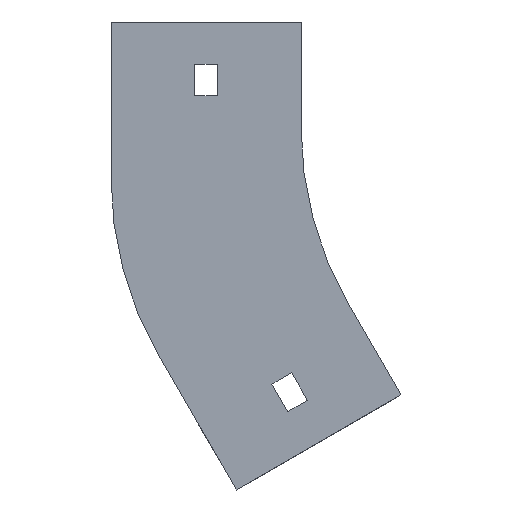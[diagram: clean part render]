
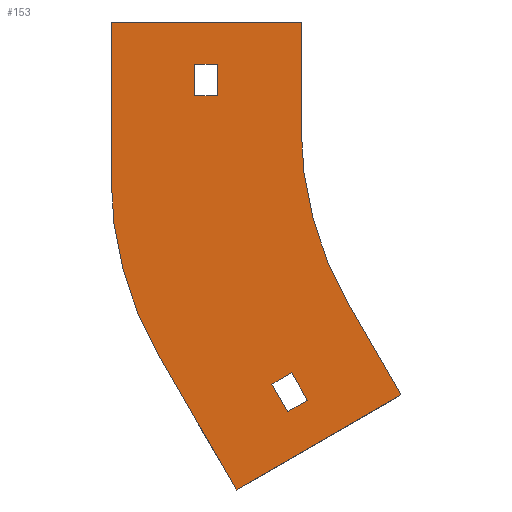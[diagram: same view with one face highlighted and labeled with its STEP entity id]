
A CAD part, front view. The second image highlights one B-rep face of the part: STEP entity #153.
In plain terms, the highlighted planar face has unit normal (0, -1, 0).
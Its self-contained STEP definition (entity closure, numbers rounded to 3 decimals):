
#5 = CARTESIAN_POINT ( 'NONE',  ( -123.75, 0., 9. ) ) ;
#7 = CARTESIAN_POINT ( 'NONE',  ( -54., 0., -14.469 ) ) ;
#8 = LINE ( 'NONE', #552, #973 ) ;
#14 = AXIS2_PLACEMENT_3D ( 'NONE', #638, #321, #531 ) ;
#20 = CARTESIAN_POINT ( 'NONE',  ( -123.75, 0., 9. ) ) ;
#23 = LINE ( 'NONE', #487, #956 ) ;
#27 = CARTESIAN_POINT ( 'NONE',  ( -100., 0., 0. ) ) ;
#30 = VERTEX_POINT ( 'NONE', #1126 ) ;
#37 = CARTESIAN_POINT ( 'NONE',  ( 0., 0., 0. ) ) ;
#46 = PLANE ( 'NONE',  #1288 ) ;
#52 = VERTEX_POINT ( 'NONE', #1305 ) ;
#54 = EDGE_CURVE ( 'NONE', #1253, #1090, #8, .T. ) ;
#58 = ORIENTED_EDGE ( 'NONE', *, *, #580, .F. ) ;
#89 = EDGE_CURVE ( 'NONE', #1090, #465, #1212, .T. ) ;
#91 = DIRECTION ( 'NONE',  ( 1., 0., 0. ) ) ;
#93 = DIRECTION ( 'NONE',  ( -0.866, 0., -0.5 ) ) ;
#125 = ORIENTED_EDGE ( 'NONE', *, *, #263, .F. ) ;
#127 = CARTESIAN_POINT ( 'NONE',  ( -86.603, 0., -50. ) ) ;
#133 = EDGE_LOOP ( 'NONE', ( #885, #837, #1022, #1375 ) ) ;
#149 = FACE_BOUND ( 'NONE', #470, .T. ) ;
#153 = ADVANCED_FACE ( 'NONE', ( #149, #1016, #222 ), #46, .T. ) ;
#161 = ORIENTED_EDGE ( 'NONE', *, *, #89, .T. ) ;
#165 = LINE ( 'NONE', #1357, #1311 ) ;
#179 = AXIS2_PLACEMENT_3D ( 'NONE', #7, #905, #654 ) ;
#181 = VECTOR ( 'NONE', #329, 1000. ) ;
#189 = CARTESIAN_POINT ( 'NONE',  ( -130.25, 0., 18. ) ) ;
#193 = LINE ( 'NONE', #189, #332 ) ;
#194 = EDGE_CURVE ( 'NONE', #1100, #1120, #165, .T. ) ;
#222 = FACE_BOUND ( 'NONE', #133, .T. ) ;
#225 = LINE ( 'NONE', #1331, #658 ) ;
#229 = VERTEX_POINT ( 'NONE', #372 ) ;
#238 = ORIENTED_EDGE ( 'NONE', *, *, #623, .T. ) ;
#253 = CARTESIAN_POINT ( 'NONE',  ( -71.603, 0., -75.981 ) ) ;
#263 = EDGE_CURVE ( 'NONE', #281, #1340, #1352, .T. ) ;
#269 = CARTESIAN_POINT ( 'NONE',  ( -100., 0., 30. ) ) ;
#278 = DIRECTION ( 'NONE',  ( -0.5, 0., 0.866 ) ) ;
#280 = CARTESIAN_POINT ( 'NONE',  ( -154., 0., -14.469 ) ) ;
#281 = VERTEX_POINT ( 'NONE', #625 ) ;
#321 = DIRECTION ( 'NONE',  ( 0., -1., 0. ) ) ;
#329 = DIRECTION ( 'NONE',  ( 0., 0., -1. ) ) ;
#331 = VECTOR ( 'NONE', #832, 1000. ) ;
#332 = VECTOR ( 'NONE', #91, 1000. ) ;
#342 = DIRECTION ( 'NONE',  ( 1., 0., 0. ) ) ;
#358 = DIRECTION ( 'NONE',  ( 0.866, 0., 0.5 ) ) ;
#371 = ORIENTED_EDGE ( 'NONE', *, *, #511, .F. ) ;
#372 = CARTESIAN_POINT ( 'NONE',  ( -123.75, 0., 18. ) ) ;
#403 = VECTOR ( 'NONE', #776, 1000. ) ;
#406 = CIRCLE ( 'NONE', #14, 100. ) ;
#412 = ORIENTED_EDGE ( 'NONE', *, *, #763, .F. ) ;
#426 = VECTOR ( 'NONE', #93, 1000. ) ;
#433 = ORIENTED_EDGE ( 'NONE', *, *, #1220, .F. ) ;
#459 = EDGE_CURVE ( 'NONE', #916, #721, #225, .T. ) ;
#462 = CARTESIAN_POINT ( 'NONE',  ( -103.8, 0., -80.713 ) ) ;
#465 = VERTEX_POINT ( 'NONE', #802 ) ;
#468 = EDGE_CURVE ( 'NONE', #1340, #1027, #986, .T. ) ;
#470 = EDGE_LOOP ( 'NONE', ( #161, #238, #1140, #651 ) ) ;
#487 = CARTESIAN_POINT ( 'NONE',  ( -103.8, 0., -80.713 ) ) ;
#511 = EDGE_CURVE ( 'NONE', #689, #925, #1111, .T. ) ;
#531 = DIRECTION ( 'NONE',  ( 0., 0., -1. ) ) ;
#547 = ORIENTED_EDGE ( 'NONE', *, *, #629, .F. ) ;
#552 = CARTESIAN_POINT ( 'NONE',  ( -130.25, 0., 9. ) ) ;
#572 = DIRECTION ( 'NONE',  ( 0.5, 0., -0.866 ) ) ;
#580 = EDGE_CURVE ( 'NONE', #925, #1100, #968, .T. ) ;
#622 = CARTESIAN_POINT ( 'NONE',  ( -102.671, 0., -69.669 ) ) ;
#623 = EDGE_CURVE ( 'NONE', #465, #229, #193, .T. ) ;
#625 = CARTESIAN_POINT ( 'NONE',  ( -154., 0., -14.469 ) ) ;
#629 = EDGE_CURVE ( 'NONE', #709, #689, #406, .T. ) ;
#637 = VECTOR ( 'NONE', #1058, 1000. ) ;
#638 = CARTESIAN_POINT ( 'NONE',  ( 0., 0., 0. ) ) ;
#651 = ORIENTED_EDGE ( 'NONE', *, *, #54, .T. ) ;
#654 = DIRECTION ( 'NONE',  ( 0., 0., 1. ) ) ;
#656 = LINE ( 'NONE', #1078, #426 ) ;
#658 = VECTOR ( 'NONE', #669, 1000. ) ;
#659 = VECTOR ( 'NONE', #1222, 1000. ) ;
#669 = DIRECTION ( 'NONE',  ( 0.5, 0., -0.866 ) ) ;
#671 = CARTESIAN_POINT ( 'NONE',  ( -86.603, 0., -50. ) ) ;
#673 = DIRECTION ( 'NONE',  ( -1., 0., 0. ) ) ;
#674 = CARTESIAN_POINT ( 'NONE',  ( -100., 0., 30. ) ) ;
#676 = ORIENTED_EDGE ( 'NONE', *, *, #468, .F. ) ;
#682 = LINE ( 'NONE', #674, #181 ) ;
#689 = VERTEX_POINT ( 'NONE', #671 ) ;
#709 = VERTEX_POINT ( 'NONE', #27 ) ;
#721 = VERTEX_POINT ( 'NONE', #462 ) ;
#744 = VECTOR ( 'NONE', #342, 1000. ) ;
#763 = EDGE_CURVE ( 'NONE', #1120, #281, #1366, .T. ) ;
#776 = DIRECTION ( 'NONE',  ( 0., 0., 1. ) ) ;
#786 = LINE ( 'NONE', #5, #659 ) ;
#790 = CARTESIAN_POINT ( 'NONE',  ( -154., 0., 30. ) ) ;
#802 = CARTESIAN_POINT ( 'NONE',  ( -130.25, 0., 18. ) ) ;
#832 = DIRECTION ( 'NONE',  ( 0., 0., 1. ) ) ;
#837 = ORIENTED_EDGE ( 'NONE', *, *, #459, .F. ) ;
#855 = CARTESIAN_POINT ( 'NONE',  ( -118.368, 0., -102.981 ) ) ;
#874 = CARTESIAN_POINT ( 'NONE',  ( -154., 0., 30. ) ) ;
#885 = ORIENTED_EDGE ( 'NONE', *, *, #918, .F. ) ;
#905 = DIRECTION ( 'NONE',  ( 0., 1., 0. ) ) ;
#907 = DIRECTION ( 'NONE',  ( 0., 0., -1. ) ) ;
#914 = VECTOR ( 'NONE', #278, 1000. ) ;
#916 = VERTEX_POINT ( 'NONE', #1243 ) ;
#918 = EDGE_CURVE ( 'NONE', #721, #52, #23, .T. ) ;
#920 = ORIENTED_EDGE ( 'NONE', *, *, #194, .F. ) ;
#924 = DIRECTION ( 'NONE',  ( -0.5, 0., 0.866 ) ) ;
#925 = VERTEX_POINT ( 'NONE', #253 ) ;
#936 = VECTOR ( 'NONE', #572, 1000. ) ;
#956 = VECTOR ( 'NONE', #358, 1000. ) ;
#968 = LINE ( 'NONE', #976, #637 ) ;
#973 = VECTOR ( 'NONE', #673, 1000. ) ;
#976 = CARTESIAN_POINT ( 'NONE',  ( -71.603, 0., -75.981 ) ) ;
#978 = CARTESIAN_POINT ( 'NONE',  ( -130.25, 0., 9. ) ) ;
#982 = EDGE_CURVE ( 'NONE', #52, #30, #1256, .T. ) ;
#986 = LINE ( 'NONE', #790, #744 ) ;
#996 = CARTESIAN_POINT ( 'NONE',  ( -130.25, 0., 9. ) ) ;
#1016 = FACE_OUTER_BOUND ( 'NONE', #1176, .T. ) ;
#1022 = ORIENTED_EDGE ( 'NONE', *, *, #1164, .F. ) ;
#1027 = VERTEX_POINT ( 'NONE', #269 ) ;
#1058 = DIRECTION ( 'NONE',  ( -0.866, 0., -0.5 ) ) ;
#1078 = CARTESIAN_POINT ( 'NONE',  ( -108.3, 0., -72.919 ) ) ;
#1090 = VERTEX_POINT ( 'NONE', #978 ) ;
#1092 = CARTESIAN_POINT ( 'NONE',  ( -140.603, 0., -64.469 ) ) ;
#1100 = VERTEX_POINT ( 'NONE', #855 ) ;
#1111 = LINE ( 'NONE', #127, #936 ) ;
#1120 = VERTEX_POINT ( 'NONE', #1092 ) ;
#1126 = CARTESIAN_POINT ( 'NONE',  ( -102.671, 0., -69.669 ) ) ;
#1140 = ORIENTED_EDGE ( 'NONE', *, *, #1309, .T. ) ;
#1164 = EDGE_CURVE ( 'NONE', #30, #916, #656, .T. ) ;
#1176 = EDGE_LOOP ( 'NONE', ( #676, #125, #412, #920, #58, #371, #547, #433 ) ) ;
#1204 = DIRECTION ( 'NONE',  ( 0., -1., 0. ) ) ;
#1212 = LINE ( 'NONE', #996, #403 ) ;
#1220 = EDGE_CURVE ( 'NONE', #1027, #709, #682, .T. ) ;
#1222 = DIRECTION ( 'NONE',  ( 0., 0., -1. ) ) ;
#1243 = CARTESIAN_POINT ( 'NONE',  ( -108.3, 0., -72.919 ) ) ;
#1253 = VERTEX_POINT ( 'NONE', #20 ) ;
#1256 = LINE ( 'NONE', #622, #914 ) ;
#1288 = AXIS2_PLACEMENT_3D ( 'NONE', #37, #1204, #907 ) ;
#1305 = CARTESIAN_POINT ( 'NONE',  ( -98.171, 0., -77.463 ) ) ;
#1309 = EDGE_CURVE ( 'NONE', #229, #1253, #786, .T. ) ;
#1311 = VECTOR ( 'NONE', #924, 1000. ) ;
#1331 = CARTESIAN_POINT ( 'NONE',  ( -108.3, 0., -72.919 ) ) ;
#1340 = VERTEX_POINT ( 'NONE', #874 ) ;
#1352 = LINE ( 'NONE', #280, #331 ) ;
#1357 = CARTESIAN_POINT ( 'NONE',  ( -118.368, 0., -102.981 ) ) ;
#1366 = CIRCLE ( 'NONE', #179, 100. ) ;
#1375 = ORIENTED_EDGE ( 'NONE', *, *, #982, .F. ) ;
